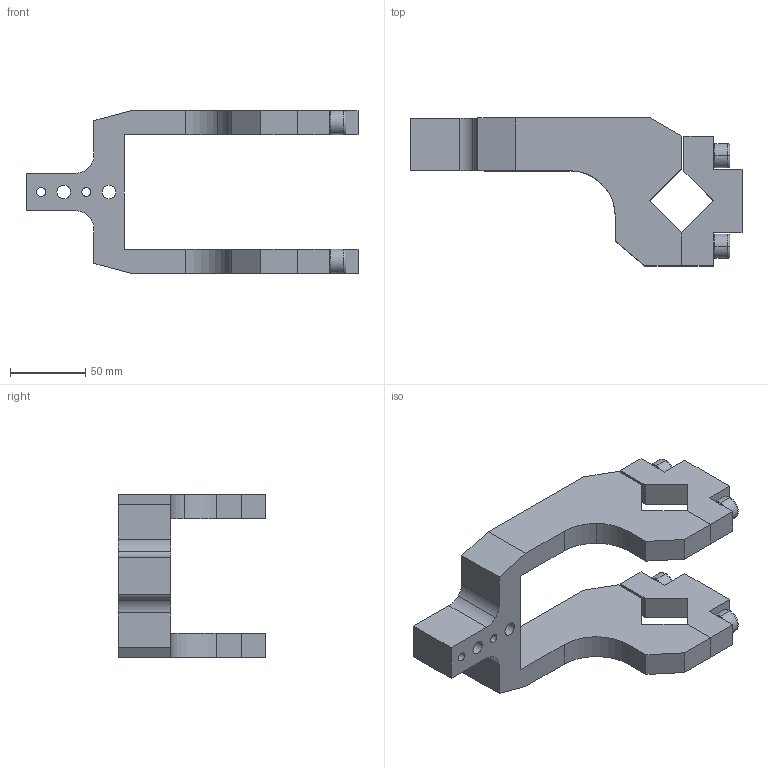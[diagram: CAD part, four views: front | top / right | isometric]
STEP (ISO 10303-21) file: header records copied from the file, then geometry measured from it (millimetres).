
FILE_DESCRIPTION((''),'2;1');
FILE_NAME('S:\Matthew\Step Files\XM Clamp Arms\XJ80-CA-01.stp','2006-06-28T08:20:11',('Matthew'),(''),'Autodesk Inventor 8','Autodesk Inventor 8','');
FILE_SCHEMA(('AUTOMOTIVE_DESIGN { 1 0 10303 214 1 1 1 1 }'));
Length unit declared in the file: millimetre
Products named in the file (1): XJ80-CA-01
Bounding box: 220 x 98 x 108 mm (x, y, z)
Volume: 366372.9 mm3; surface area: 81551.6 mm2
Topology: 1 solids, 1 shells, 361 faces, 1179 edges, 734 vertices
Faces by surface type: plane 290, cylinder 39, bspline 24, torus 8
Entity records: 13394 total; most frequent: CARTESIAN_POINT 2675, ORIENTED_EDGE 2342, DIRECTION 2301, EDGE_CURVE 1171, AXIS2_PLACEMENT_3D 792, VERTEX_POINT 734, VECTOR 717, LINE 717
